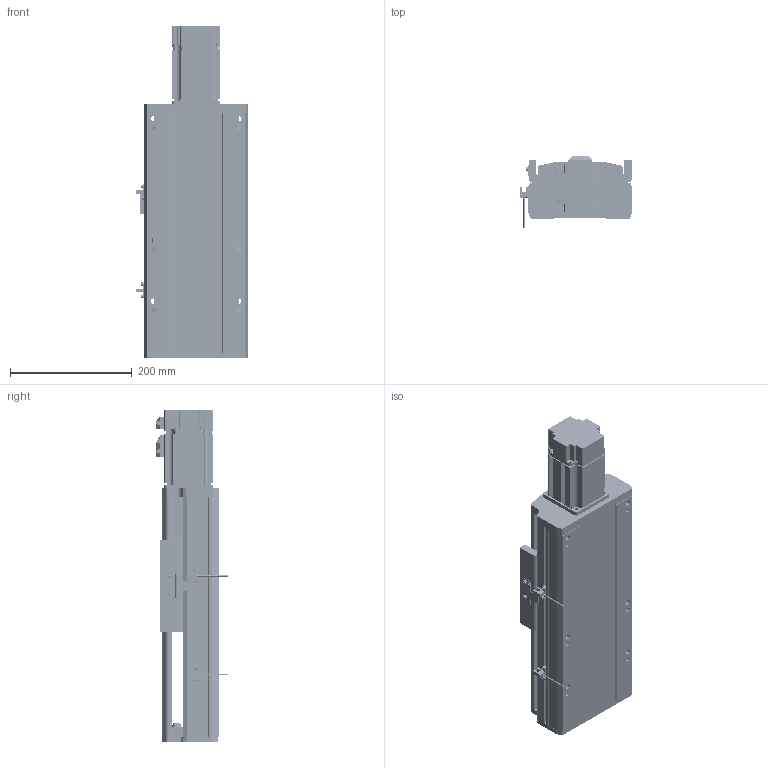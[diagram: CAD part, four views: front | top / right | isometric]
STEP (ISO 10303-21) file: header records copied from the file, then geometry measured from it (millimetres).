
FILE_DESCRIPTION (( 'STEP AP214' ), '1' );
FILE_NAME ('CTH170-150.STEP', '2019-11-25T08:44:54', ( '微软用户' ), ( '微软中国' ), 'SwSTEP 2.0', 'SolidWorks 2017', '' );
FILE_SCHEMA (( 'AUTOMOTIVE_DESIGN' ));
Length unit declared in the file: millimetre
Products named in the file (32): M5-L20囀鞠褒蹟佪-BR L; M4-L10囀鞠褒蹟佪-BR L; M5-L10囀鞠褒蹟佪; 坶踡蹟簽M15x1; EGH20CA_BLOCK; 潔路遠COL15-A; EG20_RAIL; MISUMI_B7002-DB_盄俶絳砃粣; 170賑怢; BEARING_MISUMI_B7002-DB_盄俶絳砃粣; 170裔啣^CTH170-L10-200; 錨璃8^蚾饜极3_CTH170-L10-200; 錨璃2; 复件 轴承座^装配体3_CTH170-L10-200; 佪話盓傅釱^CTH170-L10-200; CTH170-150; M5-L16囀鞠褒蹟佪; 遣喳蝶15x12x8-BR L; 支撑座^丝杠支撑座_CTH170-L10-200; B6002Z; _C-BSST2005_n; SFS2005-411-SZC; SFH2010佪裝; M3-L8囀鞠褒蹟佪; 80EMA-016A; EE-SX672峚倰換覜ん; 170萇儂啣; CT17耀郪-覜茼んえ; 170傷啣; M6-L20囀鞠褒蹟佪; EGH20CA; 蚾饜极3^CTH170-L10-200
Assembly tree (79 placements, depth 4):
  CTH170-150
    錨璃2
    170裔啣^CTH170-L10-200
    170賑怢
    EGH20CA  x2
      EG20_RAIL
      EGH20CA_BLOCK
      M5-L10囀鞠褒蹟佪
      M5-L20囀鞠褒蹟佪-BR L
    170傷啣
    170萇儂啣
    80EMA-016A
    SFS2005-411-SZC
      SFH2010佪裝
    _C-BSST2005_n
    佪話盓傅釱^CTH170-L10-200
      B6002Z
      支撑座^丝杠支撑座_CTH170-L10-200
      遣喳蝶15x12x8-BR L  x2
      M5-L16囀鞠褒蹟佪  x2
    蚾饜极3^CTH170-L10-200
      复件 轴承座^装配体3_CTH170-L10-200
      錨璃8^蚾饜极3_CTH170-L10-200
      MISUMI_B7002-DB_盄俶絳砃粣
        BEARING_MISUMI_B7002-DB_盄俶絳砃粣  x2
      潔路遠COL15-A  x2
      坶踡蹟簽M15x1
      M5-L16囀鞠褒蹟佪  x6
      M4-L10囀鞠褒蹟佪-BR L  x4
    遣喳蝶15x12x8-BR L  x2
    M6-L20囀鞠褒蹟佪  x4
    M4-L10囀鞠褒蹟佪-BR L  x10
    M5-L16囀鞠褒蹟佪  x4
    CT17耀郪-覜茼んえ
    EE-SX672峚倰換覜ん  x2
    M3-L8囀鞠褒蹟佪  x4
Bounding box: 183.7 x 117.95 x 546 mm (x, y, z)
Volume: 3836588.2 mm3; surface area: 1060007.6 mm2
Topology: 91 solids, 92 shells, 5449 faces, 14231 edges, 9082 vertices
Faces by surface type: plane 3086, cylinder 1380, cone 601, bspline 342, torus 40
Entity records: 95648 total; most frequent: CARTESIAN_POINT 20363, ORIENTED_EDGE 13720, DIRECTION 13315, EDGE_CURVE 6860, AXIS2_PLACEMENT_3D 4592, VERTEX_POINT 4458, LINE 4131, VECTOR 4131
